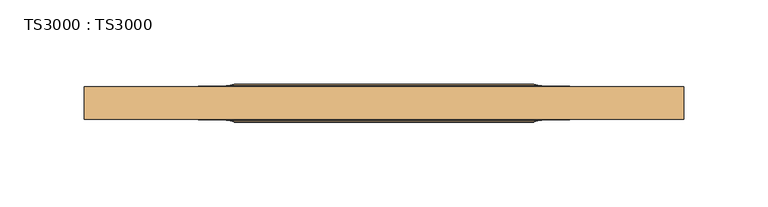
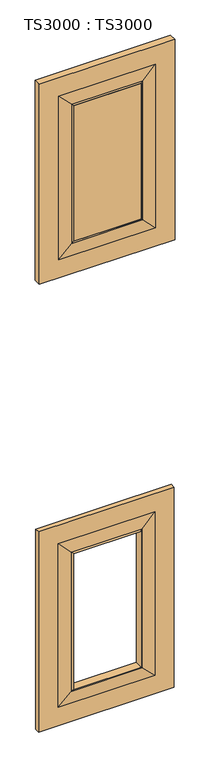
"""IFC4 building model written with IfcOpenShell, lengths in millimetres: door geometry, TS3000 : TS3000."""

from ifc_helpers import new_model, si_unit, frame, origin, place, context, project, spatial, polyline, ellipse_curve, outline, extrude, source, transform, mapped, element, save
from ifc_brep_helpers import plane_surface, revolved_surface, advanced_brep


def ts3000_ts3000_e69fdbf4(model_context):
    return source(origin(), model_context, "Body", "SolidModel", [
        advanced_brep(
        [(482.6, 15.875, 764.1166667), (482.6, 15.875, 209.55), (482.6, 28.575, 209.55), (482.6, 28.575, 764.1166667), (393.7, 33.3375, 675.2166667), (393.7, 33.3375, 298.45), (393.7, 11.1125, 298.45), (393.7, 11.1125, 675.2166667), (127.0, 15.875, 209.55), (127.0, 28.575, 209.55), (215.9, 33.3375, 298.45), (215.9, 11.1125, 298.45), (127.0, 15.875, 764.1166667), (127.0, 28.575, 764.1166667), (215.9, 33.3375, 675.2166667), (215.9, 11.1125, 675.2166667), (431.8, 28.575, 260.35), (431.8, 28.575, 713.3166667), (177.8, 28.575, 713.3166667), (177.8, 28.575, 260.35), (431.8, 15.875, 713.3166667), (431.8, 15.875, 260.35), (177.8, 15.875, 260.35), (177.8, 15.875, 713.3166667), (398.4625, 30.95625, 293.6875), (398.4625, 30.95625, 679.9791667), (211.1375, 30.95625, 293.6875), (211.1375, 30.95625, 679.9791667), (398.4625, 13.49375, 679.9791667), (398.4625, 13.49375, 293.6875), (211.1375, 13.49375, 293.6875), (211.1375, 13.49375, 679.9791667)],
        [
            (0, 1),
            (1, 2),
            (2, 3),
            (3, 0),
            (4, 5),
            (5, 6),
            (6, 7),
            (7, 4),
            (1, 8),
            (8, 9),
            (9, 2),
            (5, 10),
            (10, 11),
            (11, 6),
            (8, 12),
            (12, 13),
            (13, 9),
            (10, 14),
            (14, 15),
            (15, 11),
            (13, 3),
            (16, 17),
            (17, 18),
            (18, 19),
            (19, 16),
            (12, 0),
            (20, 21),
            (21, 22),
            (22, 23),
            (23, 20),
            (14, 4),
            (7, 15),
            (16, 24),
            (24, 25),
            (25, 17),
            (19, 26),
            (26, 24),
            (18, 27),
            (27, 26),
            (25, 27),
            (28, 29),
            (29, 21),
            (20, 28),
            (6, 29, ellipse_curve(frame((398.9585938, 6.5484375, 293.1914062), z_axis=(-0.7071067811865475, 0.0, -0.7071067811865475), x_axis=(0.7071067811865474, 0.0, -0.7071067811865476)), 9.8471798, 6.9630076)),
            (28, 7, ellipse_curve(frame((398.9585938, 6.5484375, 680.4752604), z_axis=(-0.7071067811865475, 0.0, 0.7071067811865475), x_axis=(-0.7071067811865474, 0.0, -0.7071067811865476)), 9.8471798, 6.9630076)),
            (24, 5, ellipse_curve(frame((398.9585938, 37.9015625, 293.1914062), z_axis=(-0.7071067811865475, 0.0, -0.7071067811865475), x_axis=(0.7071067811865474, 0.0, -0.7071067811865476)), 9.8471798, 6.9630076)),
            (4, 25, ellipse_curve(frame((398.9585938, 37.9015625, 680.4752604), z_axis=(-0.7071067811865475, 0.0, 0.7071067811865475), x_axis=(-0.7071067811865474, 0.0, -0.7071067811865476)), 9.8471798, 6.9630076)),
            (29, 30),
            (30, 22),
            (11, 30, ellipse_curve(frame((210.6414063, 6.5484375, 293.1914062), z_axis=(-0.7071067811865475, 0.0, 0.7071067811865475), x_axis=(-0.7071067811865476, 0.0, -0.7071067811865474)), 9.8471798, 6.9630076)),
            (26, 10, ellipse_curve(frame((210.6414063, 37.9015625, 293.1914062), z_axis=(-0.7071067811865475, 0.0, 0.7071067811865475), x_axis=(-0.7071067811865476, 0.0, -0.7071067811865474)), 9.8471798, 6.9630076)),
            (30, 31),
            (31, 23),
            (15, 31, ellipse_curve(frame((210.6414063, 6.5484375, 680.4752604), z_axis=(0.7071067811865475, 0.0, 0.7071067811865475), x_axis=(-0.7071067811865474, 0.0, 0.7071067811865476)), 9.8471798, 6.9630076)),
            (27, 14, ellipse_curve(frame((210.6414063, 37.9015625, 680.4752604), z_axis=(0.7071067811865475, 0.0, 0.7071067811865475), x_axis=(-0.7071067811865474, 0.0, 0.7071067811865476)), 9.8471798, 6.9630076)),
            (31, 28),
        ],
        [
            plane_surface(frame((482.6, 28.575, 764.1166667), z_axis=(1.0, 0.0, 0.0), x_axis=(0.0, 0.0, -1.0))),
            plane_surface(frame((393.7, 11.1125, 675.2166667), z_axis=(-1.0, 0.0, 0.0), x_axis=(0.0, 0.0, -1.0))),
            plane_surface(frame((482.6, 28.575, 209.55), z_axis=(0.0, 0.0, -1.0), x_axis=(-1.0, 0.0, 0.0))),
            plane_surface(frame((393.7, 11.1125, 298.45), z_axis=(0.0, 0.0, 1.0), x_axis=(-1.0, 0.0, 0.0))),
            plane_surface(frame((127.0, 28.575, 209.55), z_axis=(-1.0, 0.0, 0.0), x_axis=(0.0, 0.0, 1.0))),
            plane_surface(frame((215.9, 11.1125, 298.45), z_axis=(1.0, 0.0, 0.0), x_axis=(0.0, 0.0, 1.0))),
            plane_surface(frame((177.8, 28.575, 713.3166667), z_axis=(0.0, 1.0, 0.0), x_axis=(1.0, 0.0, 0.0))),
            plane_surface(frame((127.0, 28.575, 764.1166667), z_axis=(0.0, 0.0, 1.0), x_axis=(1.0, 0.0, 0.0))),
            plane_surface(frame((127.0, 15.875, 764.1166667), z_axis=(0.0, -1.0, 0.0), x_axis=(1.0, 0.0, 0.0))),
            plane_surface(frame((215.9, 11.1125, 675.2166667), z_axis=(0.0, 0.0, -1.0), x_axis=(1.0, 0.0, 0.0))),
            plane_surface(frame((398.4625, 30.95625, 679.9791667), z_axis=(0.07124704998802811, 0.9974586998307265, 0.0), x_axis=(0.0, 0.0, -1.0))),
            plane_surface(frame((398.4625, 30.95625, 293.6875), z_axis=(0.0, 0.9974586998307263, -0.07124704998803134), x_axis=(-1.0, 0.0, 0.0))),
            plane_surface(frame((211.1375, 30.95625, 293.6875), z_axis=(-0.07124704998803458, 0.9974586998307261, 0.0), x_axis=(0.0, 0.0, 1.0))),
            plane_surface(frame((211.1375, 30.95625, 679.9791667), z_axis=(0.0, 0.9974586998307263, 0.07124704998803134), x_axis=(1.0, 0.0, 0.0))),
            plane_surface(frame((431.8, 15.875, 713.3166667), z_axis=(0.07124704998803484, -0.9974586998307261, 0.0), x_axis=(0.0, 0.0, -1.0))),
            revolved_surface(polyline([(391.9955862, 6.5484375, 286.2283985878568), (391.9955862, 6.5484375, 687.4382680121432)]), (398.9585938, 6.5484375, 675.2166667), (0.0, 0.0, -1.0)),
            revolved_surface(polyline([(391.9955862, 37.9015625, 286.2283985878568), (391.9955862, 37.9015625, 687.4382680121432)]), (398.9585938, 37.9015625, 675.2166667), (0.0, 0.0, -1.0)),
            plane_surface(frame((431.8, 15.875, 260.35), z_axis=(0.0, -0.9974586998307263, -0.07124704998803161), x_axis=(-1.0, 0.0, 0.0))),
            revolved_surface(polyline([(203.6783986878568, 6.5484375, 300.15441380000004), (405.9216014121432, 6.5484375, 300.15441380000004)]), (393.7, 6.5484375, 293.1914062), (-1.0, 0.0, 0.0)),
            revolved_surface(polyline([(203.6783986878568, 37.9015625, 300.15441380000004), (405.9216014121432, 37.9015625, 300.15441380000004)]), (393.7, 37.9015625, 293.1914062), (-1.0, 0.0, 0.0)),
            plane_surface(frame((177.8, 15.875, 260.35), z_axis=(-0.07124704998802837, -0.9974586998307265, 0.0), x_axis=(0.0, 0.0, 1.0))),
            revolved_surface(polyline([(217.6044139, 6.5484375, 687.4382680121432), (217.6044139, 6.5484375, 286.2283985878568)]), (210.6414063, 6.5484375, 298.45), (0.0, 0.0, 1.0)),
            revolved_surface(polyline([(217.6044139, 37.9015625, 687.4382680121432), (217.6044139, 37.9015625, 286.2283985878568)]), (210.6414063, 37.9015625, 298.45), (0.0, 0.0, 1.0)),
            plane_surface(frame((177.8, 15.875, 713.3166667), z_axis=(0.0, -0.9974586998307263, 0.07124704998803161), x_axis=(1.0, 0.0, 0.0))),
            revolved_surface(polyline([(405.9216014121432, 6.5484375, 673.5122528), (203.6783986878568, 6.5484375, 673.5122528)]), (215.9, 6.5484375, 680.4752604), (1.0, 0.0, 0.0)),
            revolved_surface(polyline([(405.9216014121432, 37.9015625, 673.5122528), (203.6783986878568, 37.9015625, 673.5122528)]), (215.9, 37.9015625, 680.4752604), (1.0, 0.0, 0.0)),
        ],
        [
            (0, [[1, 2, 3, 4]]),
            (1, [[5, 6, 7, 8]]),
            (2, [[9, 10, 11, -2]]),
            (3, [[12, 13, 14, -6]]),
            (4, [[15, 16, 17, -10]]),
            (5, [[18, 19, 20, -13]]),
            (6, [[-3, -11, -17, 21], [22, 23, 24, 25]]),
            (7, [[26, -4, -21, -16]]),
            (8, [[-1, -26, -15, -9], [27, 28, 29, 30]]),
            (9, [[31, -8, 32, -19]]),
            (10, [[-22, 33, 34, 35]]),
            (11, [[-25, 36, 37, -33]]),
            (12, [[-24, 38, 39, -36]]),
            (13, [[-23, -35, 40, -38]]),
            (14, [[41, 42, -27, 43]]),
            (15, [[-7, 44, -41, 45]]),
            (16, [[-34, 46, -5, 47]]),
            (17, [[48, 49, -28, -42]]),
            (18, [[-14, 50, -48, -44]]),
            (19, [[-37, 51, -12, -46]]),
            (20, [[52, 53, -29, -49]]),
            (21, [[-20, 54, -52, -50]]),
            (22, [[-39, 55, -18, -51]]),
            (23, [[56, -43, -30, -53]]),
            (24, [[-32, -45, -56, -54]]),
            (25, [[-40, -47, -31, -55]]),
        ],
    ),
        advanced_brep(
        [(482.6, 12.7, 2006.6), (482.6, 12.7, 1452.0333333), (482.6, 31.75, 1452.0333333), (482.6, 31.75, 2006.6), (393.7, 33.3375, 1917.7), (393.7, 33.3375, 1540.9333333), (393.7, 11.1125, 1540.9333333), (393.7, 11.1125, 1917.7), (127.0, 12.7, 1452.0333333), (127.0, 31.75, 1452.0333333), (215.9, 33.3375, 1540.9333333), (215.9, 11.1125, 1540.9333333), (127.0, 12.7, 2006.6), (127.0, 31.75, 2006.6), (215.9, 33.3375, 1917.7), (215.9, 11.1125, 1917.7), (431.8, 31.75, 1502.8333333), (431.8, 31.75, 1955.8), (177.8, 31.75, 1955.8), (177.8, 31.75, 1502.8333333), (431.8, 12.7, 1955.8), (431.8, 12.7, 1502.8333333), (177.8, 12.7, 1502.8333333), (177.8, 12.7, 1955.8), (398.4625, 32.54375, 1536.1708333), (398.4625, 32.54375, 1922.4625), (211.1375, 32.54375, 1536.1708333), (211.1375, 32.54375, 1922.4625), (398.4625, 11.90625, 1922.4625), (398.4625, 11.90625, 1536.1708333), (211.1375, 11.90625, 1536.1708333), (211.1375, 11.90625, 1922.4625)],
        [
            (0, 1),
            (1, 2),
            (2, 3),
            (3, 0),
            (4, 5),
            (5, 6),
            (6, 7),
            (7, 4),
            (1, 8),
            (8, 9),
            (9, 2),
            (5, 10),
            (10, 11),
            (11, 6),
            (8, 12),
            (12, 13),
            (13, 9),
            (10, 14),
            (14, 15),
            (15, 11),
            (13, 3),
            (16, 17),
            (17, 18),
            (18, 19),
            (19, 16),
            (12, 0),
            (20, 21),
            (21, 22),
            (22, 23),
            (23, 20),
            (14, 4),
            (7, 15),
            (16, 24),
            (24, 25),
            (25, 17),
            (19, 26),
            (26, 24),
            (18, 27),
            (27, 26),
            (25, 27),
            (28, 29),
            (29, 21),
            (20, 28),
            (6, 29, ellipse_curve(frame((398.9585938, -5.7546875, 1535.6747396), z_axis=(-0.7071067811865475, 0.0, -0.7071067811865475), x_axis=(0.7071067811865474, 0.0, -0.7071067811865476)), 24.9861891, 17.6679037)),
            (28, 7, ellipse_curve(frame((398.9585938, -5.7546875, 1922.9585938), z_axis=(-0.7071067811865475, 0.0, 0.7071067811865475), x_axis=(-0.7071067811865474, 0.0, -0.7071067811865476)), 24.9861891, 17.6679037)),
            (24, 5, ellipse_curve(frame((398.9585938, 50.2046875, 1535.6747396), z_axis=(-0.7071067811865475, 0.0, -0.7071067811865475), x_axis=(0.7071067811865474, 0.0, -0.7071067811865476)), 24.9861891, 17.6679037)),
            (4, 25, ellipse_curve(frame((398.9585938, 50.2046875, 1922.9585938), z_axis=(-0.7071067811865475, 0.0, 0.7071067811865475), x_axis=(-0.7071067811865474, 0.0, -0.7071067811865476)), 24.9861891, 17.6679037)),
            (29, 30),
            (30, 22),
            (11, 30, ellipse_curve(frame((210.6414063, -5.7546875, 1535.6747396), z_axis=(-0.7071067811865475, 0.0, 0.7071067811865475), x_axis=(-0.7071067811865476, 0.0, -0.7071067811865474)), 24.9861891, 17.6679037)),
            (26, 10, ellipse_curve(frame((210.6414063, 50.2046875, 1535.6747396), z_axis=(-0.7071067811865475, 0.0, 0.7071067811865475), x_axis=(-0.7071067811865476, 0.0, -0.7071067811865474)), 24.9861891, 17.6679037)),
            (30, 31),
            (31, 23),
            (15, 31, ellipse_curve(frame((210.6414063, -5.7546875, 1922.9585938), z_axis=(0.7071067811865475, 0.0, 0.7071067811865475), x_axis=(-0.7071067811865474, 0.0, 0.7071067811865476)), 24.9861891, 17.6679037)),
            (27, 14, ellipse_curve(frame((210.6414063, 50.2046875, 1922.9585938), z_axis=(0.7071067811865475, 0.0, 0.7071067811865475), x_axis=(-0.7071067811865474, 0.0, 0.7071067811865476)), 24.9861891, 17.6679037)),
            (31, 28),
        ],
        [
            plane_surface(frame((482.6, 31.75, 2006.6), z_axis=(1.0, 0.0, 0.0), x_axis=(0.0, 0.0, -1.0))),
            plane_surface(frame((393.7, 11.1125, 1917.7), z_axis=(-1.0, 0.0, 0.0), x_axis=(0.0, 0.0, -1.0))),
            plane_surface(frame((482.6, 31.75, 1452.0333333), z_axis=(0.0, 0.0, -1.0), x_axis=(-1.0, 0.0, 0.0))),
            plane_surface(frame((393.7, 11.1125, 1540.9333333), z_axis=(0.0, 0.0, 1.0), x_axis=(-1.0, 0.0, 0.0))),
            plane_surface(frame((127.0, 31.75, 1452.0333333), z_axis=(-1.0, 0.0, 0.0), x_axis=(0.0, 0.0, 1.0))),
            plane_surface(frame((215.9, 11.1125, 1540.9333333), z_axis=(1.0, 0.0, 0.0), x_axis=(0.0, 0.0, 1.0))),
            plane_surface(frame((177.8, 31.75, 1955.8), z_axis=(0.0, 1.0, 0.0), x_axis=(1.0, 0.0, 0.0))),
            plane_surface(frame((127.0, 31.75, 2006.6), z_axis=(0.0, 0.0, 1.0), x_axis=(1.0, 0.0, 0.0))),
            plane_surface(frame((127.0, 12.7, 2006.6), z_axis=(0.0, -1.0, 0.0), x_axis=(1.0, 0.0, 0.0))),
            plane_surface(frame((215.9, 11.1125, 1917.7), z_axis=(0.0, 0.0, -1.0), x_axis=(1.0, 0.0, 0.0))),
            plane_surface(frame((398.4625, 32.54375, 1922.4625), z_axis=(0.023802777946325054, 0.9997166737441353, 0.0), x_axis=(0.0, 0.0, -1.0))),
            plane_surface(frame((398.4625, 32.54375, 1536.1708333), z_axis=(0.0, 0.9997166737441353, -0.02380277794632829), x_axis=(-1.0, 0.0, 0.0))),
            plane_surface(frame((211.1375, 32.54375, 1536.1708333), z_axis=(-0.023802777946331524, 0.9997166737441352, 0.0), x_axis=(0.0, 0.0, 1.0))),
            plane_surface(frame((211.1375, 32.54375, 1922.4625), z_axis=(0.0, 0.9997166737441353, 0.02380277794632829), x_axis=(1.0, 0.0, 0.0))),
            plane_surface(frame((431.8, 12.7, 1955.8), z_axis=(0.023802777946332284, -0.9997166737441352, 0.0), x_axis=(0.0, 0.0, -1.0))),
            revolved_surface(polyline([(381.2906901, -5.7546875, 1518.0068358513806), (381.2906901, -5.7546875, 1940.6264975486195)]), (398.9585938, -5.7546875, 1917.7), (0.0, 0.0, -1.0)),
            revolved_surface(polyline([(381.2906901, 50.2046875, 1518.0068358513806), (381.2906901, 50.2046875, 1940.6264975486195)]), (398.9585938, 50.2046875, 1917.7), (0.0, 0.0, -1.0)),
            plane_surface(frame((431.8, 12.7, 1502.8333333), z_axis=(0.0, -0.9997166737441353, -0.02380277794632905), x_axis=(-1.0, 0.0, 0.0))),
            revolved_surface(polyline([(192.9735025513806, -5.7546875, 1553.3426433), (416.6264975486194, -5.7546875, 1553.3426433)]), (393.7, -5.7546875, 1535.6747396), (-1.0, 0.0, 0.0)),
            revolved_surface(polyline([(192.9735025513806, 50.2046875, 1553.3426433), (416.6264975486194, 50.2046875, 1553.3426433)]), (393.7, 50.2046875, 1535.6747396), (-1.0, 0.0, 0.0)),
            plane_surface(frame((177.8, 12.7, 1502.8333333), z_axis=(-0.023802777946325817, -0.9997166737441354, 0.0), x_axis=(0.0, 0.0, 1.0))),
            revolved_surface(polyline([(228.30931, -5.7546875, 1940.6264975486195), (228.30931, -5.7546875, 1518.0068358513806)]), (210.6414063, -5.7546875, 1540.9333333), (0.0, 0.0, 1.0)),
            revolved_surface(polyline([(228.30931, 50.2046875, 1940.6264975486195), (228.30931, 50.2046875, 1518.0068358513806)]), (210.6414063, 50.2046875, 1540.9333333), (0.0, 0.0, 1.0)),
            plane_surface(frame((177.8, 12.7, 1955.8), z_axis=(0.0, -0.9997166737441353, 0.02380277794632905), x_axis=(1.0, 0.0, 0.0))),
            revolved_surface(polyline([(416.62649754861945, -5.7546875, 1905.2906901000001), (192.9735025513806, -5.7546875, 1905.2906901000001)]), (215.9, -5.7546875, 1922.9585938), (1.0, 0.0, 0.0)),
            revolved_surface(polyline([(416.62649754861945, 50.2046875, 1905.2906901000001), (192.9735025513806, 50.2046875, 1905.2906901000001)]), (215.9, 50.2046875, 1922.9585938), (1.0, 0.0, 0.0)),
        ],
        [
            (0, [[1, 2, 3, 4]]),
            (1, [[5, 6, 7, 8]]),
            (2, [[9, 10, 11, -2]]),
            (3, [[12, 13, 14, -6]]),
            (4, [[15, 16, 17, -10]]),
            (5, [[18, 19, 20, -13]]),
            (6, [[-3, -11, -17, 21], [22, 23, 24, 25]]),
            (7, [[26, -4, -21, -16]]),
            (8, [[-1, -26, -15, -9], [27, 28, 29, 30]]),
            (9, [[31, -8, 32, -19]]),
            (10, [[-22, 33, 34, 35]]),
            (11, [[-25, 36, 37, -33]]),
            (12, [[-24, 38, 39, -36]]),
            (13, [[-23, -35, 40, -38]]),
            (14, [[41, 42, -27, 43]]),
            (15, [[-7, 44, -41, 45]]),
            (16, [[-34, 46, -5, 47]]),
            (17, [[48, 49, -28, -42]]),
            (18, [[-14, 50, -48, -44]]),
            (19, [[-37, 51, -12, -46]]),
            (20, [[52, 53, -29, -49]]),
            (21, [[-20, 54, -52, -50]]),
            (22, [[-39, 55, -18, -51]]),
            (23, [[56, -43, -30, -53]]),
            (24, [[-32, -45, -56, -54]]),
            (25, [[-40, -47, -31, -55]]),
        ],
    ),
        extrude(outline(polyline([(215.9, 11.1125), (215.9, 33.3375), (393.7, 33.3375), (393.7, 11.1125), (215.9, 11.1125)])), frame((0.0, 0.0, 1540.9333333), z_axis=(0.0, 0.0, 1.0), x_axis=(1.0, 0.0, 0.0)), (0.0, 0.0, 1.0), 376.7666667),
    ])


if __name__ == "__main__":
    model = new_model("IFC4")
    model_context = context("Model", 3, world=origin())
    ifc_project = project(units=[si_unit("LENGTHUNIT", "METRE", prefix="MILLI")], contexts=[model_context])
    site = spatial("IfcSite", under=ifc_project)
    building = spatial("IfcBuilding", under=site)
    placement = place(None, origin())
    ts3000_ts3000_shape = ts3000_ts3000_e69fdbf4(model_context)
    element("IfcDoor", 1, ObjectType="TS3000 : TS3000", at=placement, inside=building, context=model_context, shape_type="MappedRepresentation", body=[
        mapped(ts3000_ts3000_shape, transform((0.0, 0.0, 0.0), x_axis=(1.0, 0.0, 0.0), y_axis=(0.0, 1.0, 0.0), z_axis=(0.0, 0.0, 1.0))),
    ])
    save(model, "model.ifc")
